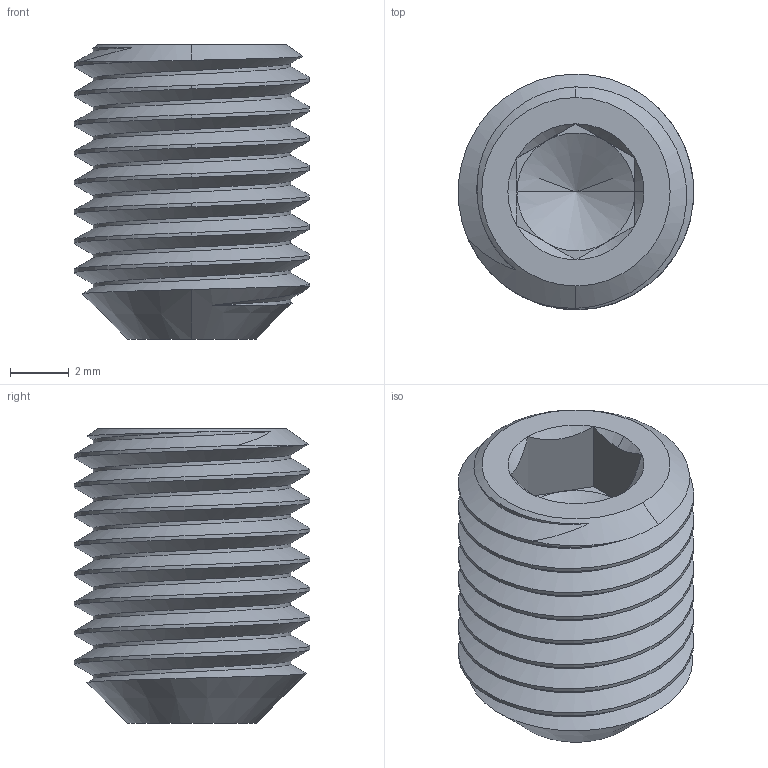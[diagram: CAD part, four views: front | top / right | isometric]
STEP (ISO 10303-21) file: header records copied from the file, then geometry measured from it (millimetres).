
FILE_DESCRIPTION (( 'STEP AP203' ), '1' );
FILE_NAME ('Cup-Point Set Screw 8x10 pitch 1mm.STEP', '2025-09-25T16:35:44', ( '' ), ( '' ), 'SwSTEP 2.0', 'SolidWorks 2024', '' );
FILE_SCHEMA (( 'CONFIG_CONTROL_DESIGN' ));
Length unit declared in the file: millimetre
Products named in the file (1): Cup-Point Set Screw 8x10 pitch 1mm
Bounding box: 7.99 x 8 x 10 mm (x, y, z)
Volume: 354.7 mm3; surface area: 466.4 mm2
Topology: 1 solids, 1 shells, 47 faces, 116 edges, 68 vertices
Faces by surface type: cylinder 16, cone 15, plane 13, bspline 3
Entity records: 3068 total; most frequent: CARTESIAN_POINT 2042, ORIENTED_EDGE 224, DIRECTION 170, EDGE_CURVE 112, VERTEX_POINT 68, AXIS2_PLACEMENT_3D 64, EDGE_LOOP 48, ADVANCED_FACE 47
